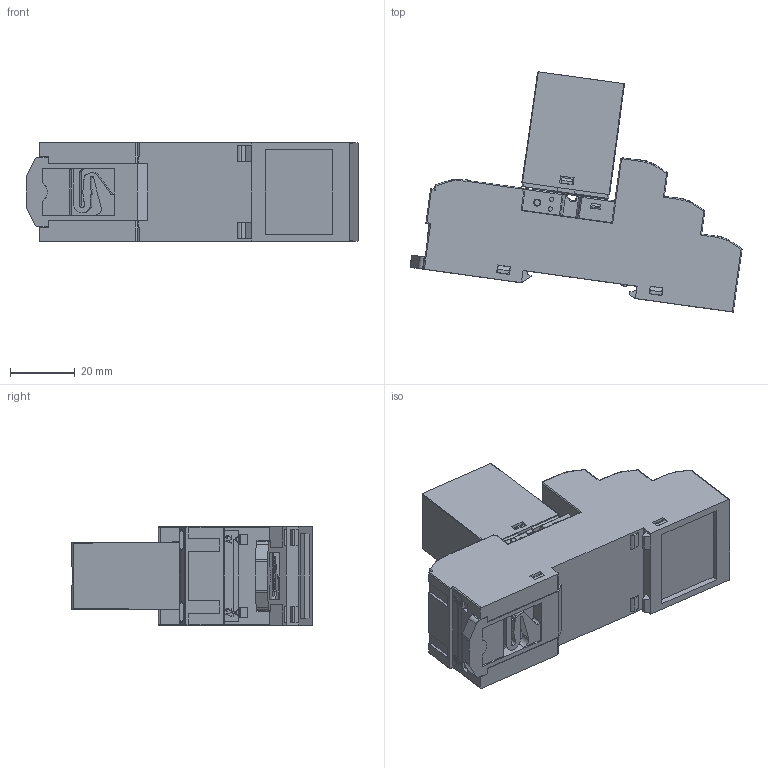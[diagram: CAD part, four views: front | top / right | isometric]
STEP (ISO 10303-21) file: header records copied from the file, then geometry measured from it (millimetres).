
FILE_DESCRIPTION (( 'STEP AP203' ), '1' );
FILE_NAME ('RKF4CO+SKC14-ST 俋倛.STEP', '2023-06-07T05:32:25', ( '' ), ( '' ), 'SwSTEP 2.0', 'SolidWorks 2018', '' );
FILE_SCHEMA (( 'CONFIG_CONTROL_DESIGN' ));
Length unit declared in the file: millimetre
Products named in the file (3): SKC14-ST; RKF4C 俋倛; RKF4CO+SKC14-ST 俋倛
Assembly tree (2 placements, depth 2):
  RKF4CO+SKC14-ST 俋倛
    SKC14-ST
    RKF4C 俋倛
Bounding box: 102.64 x 74.27 x 30.6 mm (x, y, z)
Volume: 101394.9 mm3; surface area: 24712.1 mm2
Topology: 2 solids, 7 shells, 2941 faces, 8163 edges, 5355 vertices
Faces by surface type: plane 1815, cylinder 732, bspline 218, cone 104, torus 38, sphere 34
Entity records: 103787 total; most frequent: CARTESIAN_POINT 32166, ORIENTED_EDGE 16238, DIRECTION 12934, EDGE_CURVE 8119, VECTOR 5596, LINE 5596, VERTEX_POINT 5343, AXIS2_PLACEMENT_3D 3669
